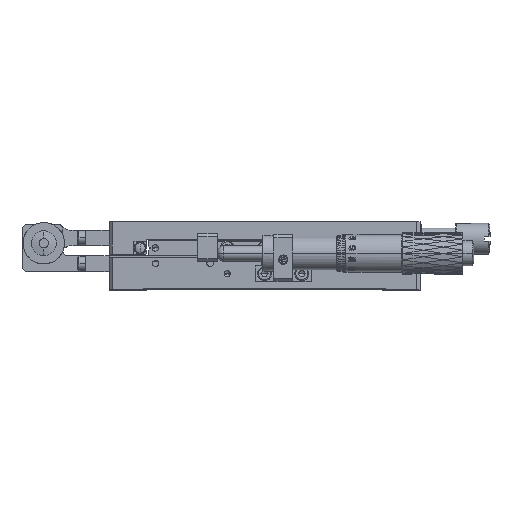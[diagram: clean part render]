
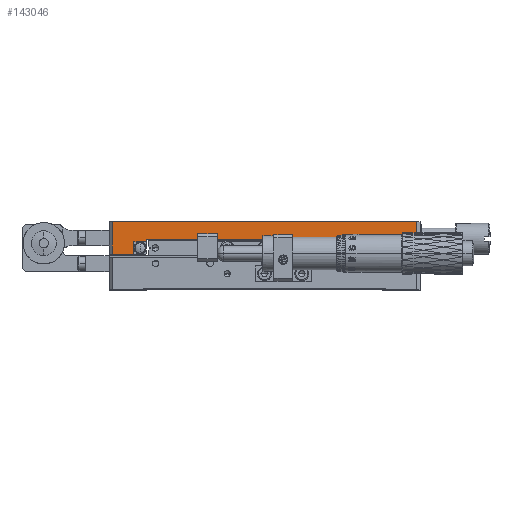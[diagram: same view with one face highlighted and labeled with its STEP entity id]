
A CAD part, top view. The second image highlights one B-rep face of the part: STEP entity #143046.
In plain terms, the highlighted planar face has unit normal (0, 0, 1).
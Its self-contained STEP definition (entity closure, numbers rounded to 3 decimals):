
#1455 = LINE ( 'NONE', #128209, #74341 ) ;
#1506 = EDGE_CURVE ( 'NONE', #181233, #164935, #24220, .T. ) ;
#2194 = CARTESIAN_POINT ( 'NONE',  ( 126.341, 98.202, 192.338 ) ) ;
#4703 = VECTOR ( 'NONE', #201903, 1000. ) ;
#10824 = LINE ( 'NONE', #12919, #166397 ) ;
#12919 = CARTESIAN_POINT ( 'NONE',  ( 35.141, 102.192, 192.338 ) ) ;
#17352 = DIRECTION ( 'NONE',  ( -1., 0., 0. ) ) ;
#19749 = DIRECTION ( 'NONE',  ( 0., 1., 0. ) ) ;
#20618 = CARTESIAN_POINT ( 'NONE',  ( 39.341, 103.002, 192.338 ) ) ;
#20956 = CARTESIAN_POINT ( 'NONE',  ( 126.341, 108.702, 192.338 ) ) ;
#24220 = LINE ( 'NONE', #88658, #118571 ) ;
#25672 = LINE ( 'NONE', #154583, #109370 ) ;
#26562 = VECTOR ( 'NONE', #119604, 1000. ) ;
#26628 = DIRECTION ( 'NONE',  ( -1., 0., 0. ) ) ;
#27496 = LINE ( 'NONE', #137381, #4703 ) ;
#30708 = CARTESIAN_POINT ( 'NONE',  ( 115.341, 103.002, 192.338 ) ) ;
#32535 = LINE ( 'NONE', #157288, #139120 ) ;
#33494 = ORIENTED_EDGE ( 'NONE', *, *, #1506, .T. ) ;
#33601 = ORIENTED_EDGE ( 'NONE', *, *, #43010, .T. ) ;
#33790 = LINE ( 'NONE', #49682, #52867 ) ;
#36330 = EDGE_LOOP ( 'NONE', ( #33601, #194947, #90204, #158054, #166643, #183000, #113849, #85468, #33494, #109979, #151167, #133148, #73772, #206405 ) ) ;
#37802 = FACE_OUTER_BOUND ( 'NONE', #36330, .T. ) ;
#43010 = EDGE_CURVE ( 'NONE', #128444, #73149, #57263, .T. ) ;
#44161 = LINE ( 'NONE', #108574, #202003 ) ;
#49682 = CARTESIAN_POINT ( 'NONE',  ( 35.341, 98.202, 192.338 ) ) ;
#49939 = EDGE_CURVE ( 'NONE', #70954, #128444, #1455, .T. ) ;
#52867 = VECTOR ( 'NONE', #109129, 1000. ) ;
#54181 = CARTESIAN_POINT ( 'NONE',  ( 35.341, 102.202, 192.338 ) ) ;
#56123 = EDGE_CURVE ( 'NONE', #176086, #160328, #10824, .T. ) ;
#57263 = LINE ( 'NONE', #201010, #26562 ) ;
#57570 = VECTOR ( 'NONE', #174387, 1000. ) ;
#58353 = LINE ( 'NONE', #204180, #109567 ) ;
#59503 = LINE ( 'NONE', #123929, #179178 ) ;
#62610 = DIRECTION ( 'NONE',  ( 0., 1., 0. ) ) ;
#66458 = CARTESIAN_POINT ( 'NONE',  ( 28.341, 98.202, 192.338 ) ) ;
#67953 = EDGE_CURVE ( 'NONE', #195509, #176086, #91074, .T. ) ;
#68658 = EDGE_CURVE ( 'NONE', #124958, #164935, #27496, .T. ) ;
#70954 = VERTEX_POINT ( 'NONE', #134940 ) ;
#72813 = DIRECTION ( 'NONE',  ( 1., 0., 0. ) ) ;
#73149 = VERTEX_POINT ( 'NONE', #2194 ) ;
#73486 = CARTESIAN_POINT ( 'NONE',  ( 39.341, 102.202, 192.338 ) ) ;
#73772 = ORIENTED_EDGE ( 'NONE', *, *, #177292, .T. ) ;
#74341 = VECTOR ( 'NONE', #193792, 1000. ) ;
#75869 = VERTEX_POINT ( 'NONE', #20956 ) ;
#76091 = LINE ( 'NONE', #94041, #57570 ) ;
#85468 = ORIENTED_EDGE ( 'NONE', *, *, #156553, .T. ) ;
#85821 = EDGE_CURVE ( 'NONE', #73149, #75869, #76091, .T. ) ;
#88658 = CARTESIAN_POINT ( 'NONE',  ( 119.341, 102.202, 192.338 ) ) ;
#90204 = ORIENTED_EDGE ( 'NONE', *, *, #98433, .T. ) ;
#91074 = LINE ( 'NONE', #155533, #146320 ) ;
#92235 = CARTESIAN_POINT ( 'NONE',  ( 119.341, 98.202, 192.338 ) ) ;
#93291 = DIRECTION ( 'NONE',  ( 1., 0., 0. ) ) ;
#94041 = CARTESIAN_POINT ( 'NONE',  ( 126.341, 108.702, 192.338 ) ) ;
#98433 = EDGE_CURVE ( 'NONE', #75869, #197474, #58353, .T. ) ;
#98604 = VERTEX_POINT ( 'NONE', #66458 ) ;
#102233 = PLANE ( 'NONE',  #141519 ) ;
#108574 = CARTESIAN_POINT ( 'NONE',  ( 115.341, 102.202, 192.338 ) ) ;
#109129 = DIRECTION ( 'NONE',  ( 1., 0., 0. ) ) ;
#109370 = VECTOR ( 'NONE', #62610, 1000. ) ;
#109567 = VECTOR ( 'NONE', #26628, 1000. ) ;
#109716 = EDGE_CURVE ( 'NONE', #164850, #127635, #44161, .T. ) ;
#109979 = ORIENTED_EDGE ( 'NONE', *, *, #68658, .F. ) ;
#113849 = ORIENTED_EDGE ( 'NONE', *, *, #67953, .F. ) ;
#113884 = CARTESIAN_POINT ( 'NONE',  ( 35.141, 98.202, 192.338 ) ) ;
#115340 = VECTOR ( 'NONE', #17352, 1000. ) ;
#117915 = CARTESIAN_POINT ( 'NONE',  ( 115.341, 102.202, 192.338 ) ) ;
#118571 = VECTOR ( 'NONE', #72813, 1000. ) ;
#119604 = DIRECTION ( 'NONE',  ( 1., 0., 0. ) ) ;
#121361 = EDGE_CURVE ( 'NONE', #197474, #98604, #32535, .T. ) ;
#123929 = CARTESIAN_POINT ( 'NONE',  ( 119.341, 102.202, 192.338 ) ) ;
#124958 = VERTEX_POINT ( 'NONE', #20618 ) ;
#125192 = CARTESIAN_POINT ( 'NONE',  ( 35.141, 102.192, 192.338 ) ) ;
#127635 = VERTEX_POINT ( 'NONE', #30708 ) ;
#128209 = CARTESIAN_POINT ( 'NONE',  ( 119.341, 98.202, 192.338 ) ) ;
#128444 = VERTEX_POINT ( 'NONE', #92235 ) ;
#131845 = DIRECTION ( 'NONE',  ( -1., 0., 0. ) ) ;
#133148 = ORIENTED_EDGE ( 'NONE', *, *, #109716, .F. ) ;
#133794 = EDGE_CURVE ( 'NONE', #98604, #160328, #33790, .T. ) ;
#134940 = CARTESIAN_POINT ( 'NONE',  ( 119.341, 102.202, 192.338 ) ) ;
#137381 = CARTESIAN_POINT ( 'NONE',  ( 39.341, 102.202, 192.338 ) ) ;
#139120 = VECTOR ( 'NONE', #174211, 1000. ) ;
#139669 = DIRECTION ( 'NONE',  ( 0., -1., 0. ) ) ;
#141519 = AXIS2_PLACEMENT_3D ( 'NONE', #166736, #150836, #131845 ) ;
#143046 = ADVANCED_FACE ( 'NONE', ( #37802 ), #102233, .F. ) ;
#146320 = VECTOR ( 'NONE', #190416, 1000. ) ;
#150836 = DIRECTION ( 'NONE',  ( 0., 0., -1. ) ) ;
#151167 = ORIENTED_EDGE ( 'NONE', *, *, #179089, .F. ) ;
#154583 = CARTESIAN_POINT ( 'NONE',  ( 35.341, 102.202, 192.338 ) ) ;
#155533 = CARTESIAN_POINT ( 'NONE',  ( 35.141, 102.192, 192.338 ) ) ;
#156553 = EDGE_CURVE ( 'NONE', #195509, #181233, #25672, .T. ) ;
#157288 = CARTESIAN_POINT ( 'NONE',  ( 28.341, 108.702, 192.338 ) ) ;
#158054 = ORIENTED_EDGE ( 'NONE', *, *, #121361, .T. ) ;
#160328 = VERTEX_POINT ( 'NONE', #113884 ) ;
#161080 = CARTESIAN_POINT ( 'NONE',  ( 39.341, 103.002, 192.338 ) ) ;
#164850 = VERTEX_POINT ( 'NONE', #117915 ) ;
#164935 = VERTEX_POINT ( 'NONE', #73486 ) ;
#166397 = VECTOR ( 'NONE', #139669, 1000. ) ;
#166643 = ORIENTED_EDGE ( 'NONE', *, *, #133794, .T. ) ;
#166736 = CARTESIAN_POINT ( 'NONE',  ( 27.341, 108.702, 192.338 ) ) ;
#174211 = DIRECTION ( 'NONE',  ( 0., -1., 0. ) ) ;
#174387 = DIRECTION ( 'NONE',  ( 0., 1., 0. ) ) ;
#174866 = LINE ( 'NONE', #161080, #115340 ) ;
#176086 = VERTEX_POINT ( 'NONE', #125192 ) ;
#177292 = EDGE_CURVE ( 'NONE', #164850, #70954, #59503, .T. ) ;
#179089 = EDGE_CURVE ( 'NONE', #127635, #124958, #174866, .T. ) ;
#179178 = VECTOR ( 'NONE', #93291, 1000. ) ;
#181233 = VERTEX_POINT ( 'NONE', #54181 ) ;
#183000 = ORIENTED_EDGE ( 'NONE', *, *, #56123, .F. ) ;
#190416 = DIRECTION ( 'NONE',  ( -1., 0., 0. ) ) ;
#193792 = DIRECTION ( 'NONE',  ( 0., -1., 0. ) ) ;
#194947 = ORIENTED_EDGE ( 'NONE', *, *, #85821, .T. ) ;
#195509 = VERTEX_POINT ( 'NONE', #199059 ) ;
#197474 = VERTEX_POINT ( 'NONE', #200908 ) ;
#199059 = CARTESIAN_POINT ( 'NONE',  ( 35.341, 102.192, 192.338 ) ) ;
#200908 = CARTESIAN_POINT ( 'NONE',  ( 28.341, 108.702, 192.338 ) ) ;
#201010 = CARTESIAN_POINT ( 'NONE',  ( 127.341, 98.202, 192.338 ) ) ;
#201903 = DIRECTION ( 'NONE',  ( 0., -1., 0. ) ) ;
#202003 = VECTOR ( 'NONE', #19749, 1000. ) ;
#204180 = CARTESIAN_POINT ( 'NONE',  ( 27.341, 108.702, 192.338 ) ) ;
#206405 = ORIENTED_EDGE ( 'NONE', *, *, #49939, .T. ) ;
